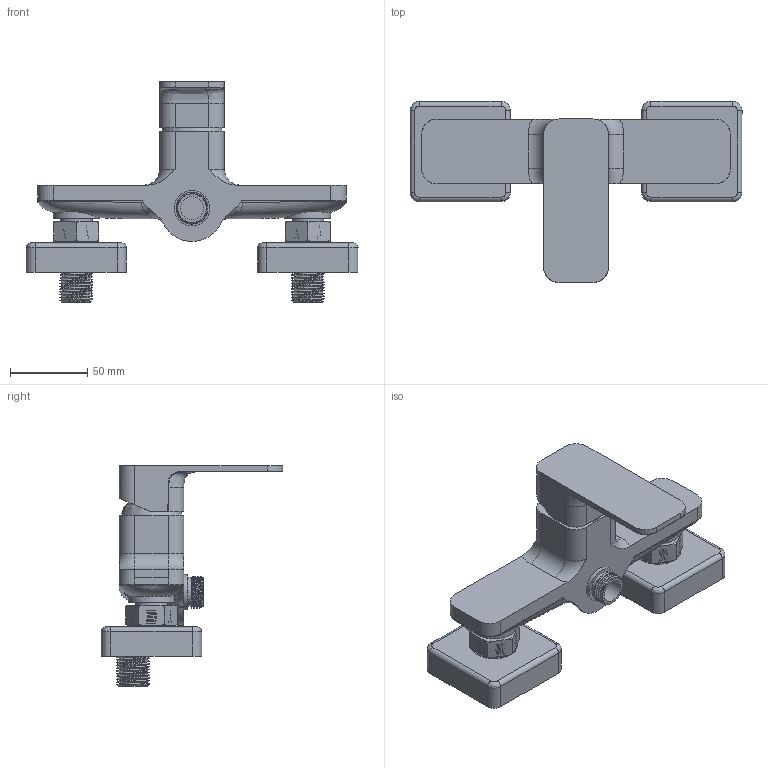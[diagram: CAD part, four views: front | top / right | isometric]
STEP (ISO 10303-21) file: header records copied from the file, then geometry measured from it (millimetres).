
FILE_DESCRIPTION(/* description */ (''),/* implementation_level */ '2;1');
FILE_NAME(/* name */ 'c:\worker\convert-fusion-r09\tmp\job-1\96\output\files\31559065-955d-44c5-a715-283f8bfc1c3d\b755c803-4720-4aa6-9421-ffb77fa8b720.zip.stp',/* time_stamp */ '2019-12-13T21:59:34+00:00',/* author */ (''),/* organization */ (''),/* preprocessor_version */ 'ST-DEVELOPER v18',/* originating_system */ 'Autodesk Translation Framework v8.12.0.6',/* authorisation */ '');
FILE_SCHEMA (('AUTOMOTIVE_DESIGN { 1 0 10303 214 3 1 1 }'));
Products named in the file (1): !AP2240
Bounding box: 215 x 117.5 x 143 mm (x, y, z)
Volume: 139885.1 mm3; surface area: 148554.4 mm2
Topology: 20 solids, 20 shells, 637 faces, 1770 edges, 1202 vertices
Faces by surface type: plane 213, cylinder 194, bspline 136, cone 68, torus 26
Full cylindrical faces by diameter (mm): 9.5 x2, 10 x2, 14 x2, 15 x3, 16 x2, 16.5 x2, 18 x4, 18.5 x2, 19 x4, 20.5 x7, 21 x20, 22.5 x2, 23 x1, 24 x4, 24.5 x2, 26 x4, 26.4 x14, 26.6 x10, 28 x1, 30 x2, 30.5 x2, 30.8 x5, 35 x2, 35.75 x1
Entity records: 76912 total; most frequent: CARTESIAN_POINT 61567, ORIENTED_EDGE 3540, DIRECTION 2712, EDGE_CURVE 1770, VERTEX_POINT 1202, AXIS2_PLACEMENT_3D 1063, EDGE_LOOP 706, FACE_OUTER_BOUND 637
